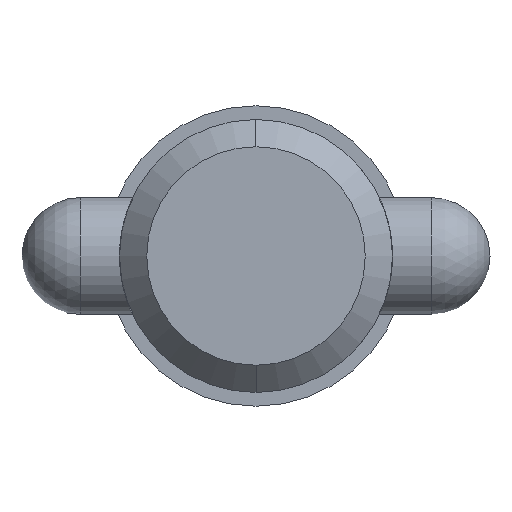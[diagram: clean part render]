
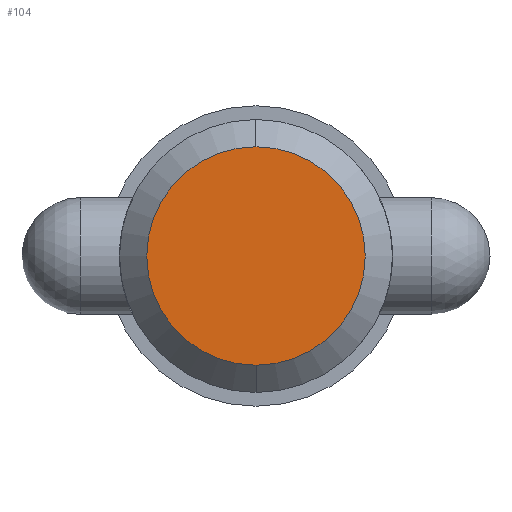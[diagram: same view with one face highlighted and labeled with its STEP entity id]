
A CAD part, left-side view. The second image highlights one B-rep face of the part: STEP entity #104.
In plain terms, the highlighted planar face has unit normal (-1, 0, 0).
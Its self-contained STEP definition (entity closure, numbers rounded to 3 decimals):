
#8 = CIRCLE ( 'NONE', #946, 8.892 ) ;
#73 = DIRECTION ( 'NONE',  ( 1., 0., 0. ) ) ;
#89 = DIRECTION ( 'NONE',  ( 1., 0., 0. ) ) ;
#102 = CIRCLE ( 'NONE', #956, 8.892 ) ;
#104 = ADVANCED_FACE ( 'NONE', ( #759 ), #255, .T. ) ;
#126 = EDGE_LOOP ( 'NONE', ( #251, #453 ) ) ;
#159 = DIRECTION ( 'NONE',  ( 0., 0., -1. ) ) ;
#175 = DIRECTION ( 'NONE',  ( 0., 0., 1. ) ) ;
#251 = ORIENTED_EDGE ( 'NONE', *, *, #676, .F. ) ;
#255 = PLANE ( 'NONE',  #747 ) ;
#265 = EDGE_CURVE ( 'NONE', #705, #1038, #8, .T. ) ;
#365 = CARTESIAN_POINT ( 'NONE',  ( 0., 0., -8.892 ) ) ;
#400 = CARTESIAN_POINT ( 'NONE',  ( 0., 0., 0. ) ) ;
#453 = ORIENTED_EDGE ( 'NONE', *, *, #265, .F. ) ;
#587 = DIRECTION ( 'NONE',  ( -1., 0., 0. ) ) ;
#651 = CARTESIAN_POINT ( 'NONE',  ( 0., 0., 0. ) ) ;
#676 = EDGE_CURVE ( 'NONE', #1038, #705, #102, .T. ) ;
#705 = VERTEX_POINT ( 'NONE', #903 ) ;
#747 = AXIS2_PLACEMENT_3D ( 'NONE', #400, #587, #175 ) ;
#759 = FACE_OUTER_BOUND ( 'NONE', #126, .T. ) ;
#903 = CARTESIAN_POINT ( 'NONE',  ( 0., 0., 8.892 ) ) ;
#918 = CARTESIAN_POINT ( 'NONE',  ( 0., 0., 0. ) ) ;
#946 = AXIS2_PLACEMENT_3D ( 'NONE', #918, #89, #1061 ) ;
#956 = AXIS2_PLACEMENT_3D ( 'NONE', #651, #73, #159 ) ;
#1038 = VERTEX_POINT ( 'NONE', #365 ) ;
#1061 = DIRECTION ( 'NONE',  ( 0., 0., -1. ) ) ;
